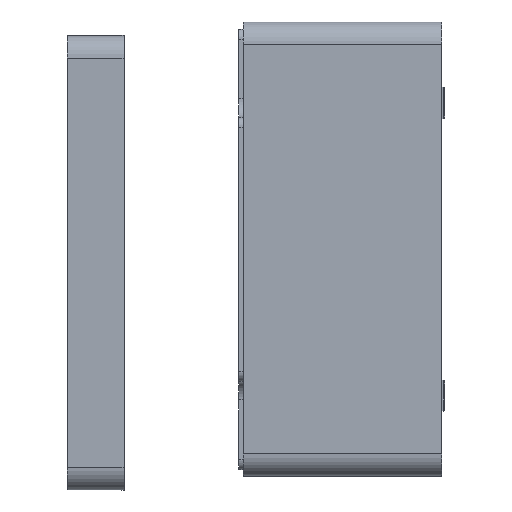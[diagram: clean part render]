
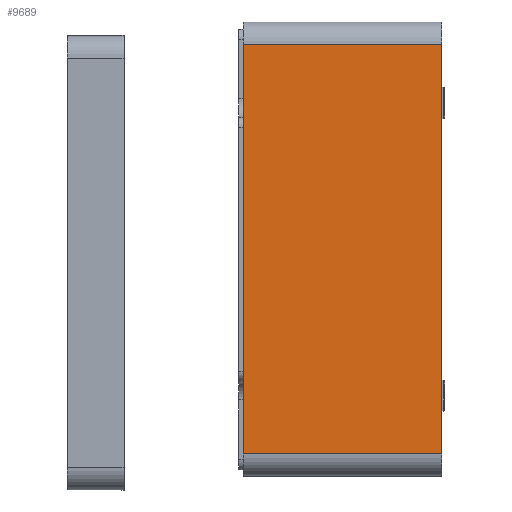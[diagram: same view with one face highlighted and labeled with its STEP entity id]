
A CAD part, left-side view. The second image highlights one B-rep face of the part: STEP entity #9689.
In plain terms, the highlighted planar face has unit normal (-1, 0, 0).
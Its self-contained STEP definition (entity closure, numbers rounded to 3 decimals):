
#1818 = DIRECTION ( 'NONE',  ( 0., -1., 0. ) ) ;
#2079 = EDGE_CURVE ( 'NONE', #23908, #23818, #14923, .T. ) ;
#3955 = ORIENTED_EDGE ( 'NONE', *, *, #18075, .T. ) ;
#4143 = ORIENTED_EDGE ( 'NONE', *, *, #8259, .T. ) ;
#6218 = VECTOR ( 'NONE', #8192, 1000. ) ;
#6595 = VERTEX_POINT ( 'NONE', #21524 ) ;
#6702 = CARTESIAN_POINT ( 'NONE',  ( -80., 70., 72. ) ) ;
#7597 = LINE ( 'NONE', #15925, #16603 ) ;
#8192 = DIRECTION ( 'NONE',  ( 0., 0., 1. ) ) ;
#8259 = EDGE_CURVE ( 'NONE', #23908, #18308, #7597, .T. ) ;
#9019 = CARTESIAN_POINT ( 'NONE',  ( -80., 70., -80. ) ) ;
#9689 = ADVANCED_FACE ( 'NONE', ( #17228 ), #13477, .F. ) ;
#10505 = CARTESIAN_POINT ( 'NONE',  ( -80., 70., -80. ) ) ;
#10583 = CARTESIAN_POINT ( 'NONE',  ( -80., 70., -72. ) ) ;
#11198 = DIRECTION ( 'NONE',  ( 0., 0., -1. ) ) ;
#13477 = PLANE ( 'NONE',  #14427 ) ;
#14427 = AXIS2_PLACEMENT_3D ( 'NONE', #9019, #19670, #11198 ) ;
#14600 = CARTESIAN_POINT ( 'NONE',  ( -80., 0., -72. ) ) ;
#14607 = EDGE_LOOP ( 'NONE', ( #16455, #3955, #23256, #4143 ) ) ;
#14656 = VECTOR ( 'NONE', #15284, 1000. ) ;
#14923 = LINE ( 'NONE', #10505, #6218 ) ;
#15284 = DIRECTION ( 'NONE',  ( 0., 0., 1. ) ) ;
#15925 = CARTESIAN_POINT ( 'NONE',  ( -80., 70., -72. ) ) ;
#15928 = EDGE_CURVE ( 'NONE', #18308, #6595, #17571, .T. ) ;
#16455 = ORIENTED_EDGE ( 'NONE', *, *, #15928, .T. ) ;
#16603 = VECTOR ( 'NONE', #1818, 1000. ) ;
#17228 = FACE_OUTER_BOUND ( 'NONE', #14607, .T. ) ;
#17571 = LINE ( 'NONE', #21104, #14656 ) ;
#18075 = EDGE_CURVE ( 'NONE', #6595, #23818, #23419, .T. ) ;
#18308 = VERTEX_POINT ( 'NONE', #14600 ) ;
#19227 = DIRECTION ( 'NONE',  ( 0., 1., 0. ) ) ;
#19670 = DIRECTION ( 'NONE',  ( 1., 0., 0. ) ) ;
#21104 = CARTESIAN_POINT ( 'NONE',  ( -80., 0., -80. ) ) ;
#21524 = CARTESIAN_POINT ( 'NONE',  ( -80., 0., 72. ) ) ;
#22828 = CARTESIAN_POINT ( 'NONE',  ( -80., 70., 72. ) ) ;
#23256 = ORIENTED_EDGE ( 'NONE', *, *, #2079, .F. ) ;
#23419 = LINE ( 'NONE', #6702, #26352 ) ;
#23818 = VERTEX_POINT ( 'NONE', #22828 ) ;
#23908 = VERTEX_POINT ( 'NONE', #10583 ) ;
#26352 = VECTOR ( 'NONE', #19227, 1000. ) ;
